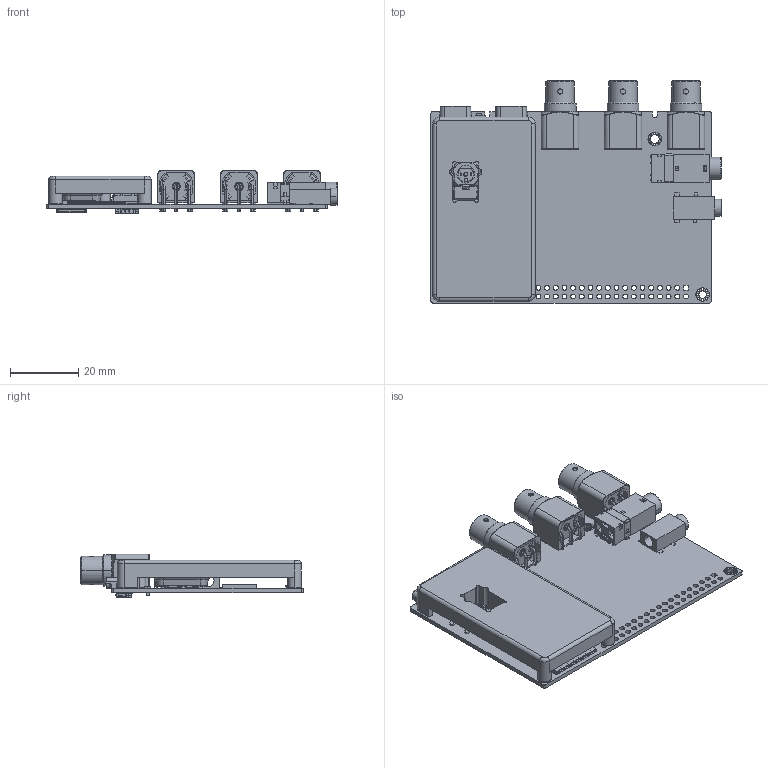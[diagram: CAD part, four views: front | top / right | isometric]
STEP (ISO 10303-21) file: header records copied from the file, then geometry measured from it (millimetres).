
FILE_DESCRIPTION((''),'2;1');
FILE_NAME('TONE2PRO_3D_MODEL_V210420_ASM','2021-04-20T',('liuhb'),(''),'CREO PARAMETRIC BY PTC INC, 2015200','CREO PARAMETRIC BY PTC INC, 2015200','');
FILE_SCHEMA(('AUTOMOTIVE_DESIGN { 1 0 10303 214 1 1 1 1 }'));
Products named in the file (34): K671-RJ-255ABKPL_OUT_2_5; SCREW_MAT_2_1_5; SCREW_MAT_2_2_5_1; SCREW_MAT_2_2_5_2; SCREW_MAT_2_2_5_ASM; SCREW_MAT_2_3_5; SCREW_MAT_2_4_5; SCREW_MAT_2_ASM_5_ASM; _SRBE110301_2_6; SRBE110301_ASM_2_ASM_6_ASM; KHADAS_TONE_SMALL_PCB_ASM_2_ASM_ASM; _D-PHONE_2_2_5; D-PHONE_2_ASM_2_ASM_5_ASM; KHADAS_TONE_SMALL_2PCB_ASM_2_AS_ASM; _HDMI_20200216_2_5; HDMI_20200216_ASM_2_ASM_5_ASM; _781710004_2_5; 781710004_ASM_2_ASM_5_ASM; FH34SRJ_ASM_2_ASM_5_ASM; RJ-20191127-BODY-12_2_5; RJ-20191127-08S1_1_ASM_2_ASM_5_ASM; RJ-20191127-08S1_ASM_2_ASM_5_ASM; PJ-4450A_3D0_3_1_5; PJ-4450A_3D0_3_2_5; PJ-4450A_3D0_3_ASM_5_ASM; TONE_P12_TOP_5; TONE2-PCBA-20200911_5; FH34SRJ-30S-0_5SH_2_5; TONE2_P12_BOTTOM_5; FH34SRJ-14S-0_5SH_5; TONE2_P13_BOTTOM_5; JIANCEZHIJU_5; TONE_V13_PCB_ASM_4_ASM_6_ASM; TONE2PRO_3D_MODEL_V210420_ASM
Assembly tree (36 placements, depth 5):
  TONE2PRO_3D_MODEL_V210420_ASM
    TONE_V13_PCB_ASM_4_ASM_6_ASM
      K671-RJ-255ABKPL_OUT_2_5
      SCREW_MAT_2_ASM_5_ASM
        SCREW_MAT_2_1_5
        SCREW_MAT_2_2_5_ASM
          SCREW_MAT_2_2_5_1
          SCREW_MAT_2_2_5_2
        SCREW_MAT_2_3_5
        SCREW_MAT_2_4_5
      KHADAS_TONE_SMALL_PCB_ASM_2_ASM_ASM
        SRBE110301_ASM_2_ASM_6_ASM
          _SRBE110301_2_6
      KHADAS_TONE_SMALL_2PCB_ASM_2_AS_ASM
        D-PHONE_2_ASM_2_ASM_5_ASM
          _D-PHONE_2_2_5
      HDMI_20200216_ASM_2_ASM_5_ASM  x2
        _HDMI_20200216_2_5
      781710004_ASM_2_ASM_5_ASM
        _781710004_2_5
      FH34SRJ_ASM_2_ASM_5_ASM
      RJ-20191127-08S1_ASM_2_ASM_5_ASM  x3
        RJ-20191127-08S1_1_ASM_2_ASM_5_ASM
          RJ-20191127-BODY-12_2_5
      PJ-4450A_3D0_3_ASM_5_ASM
        PJ-4450A_3D0_3_1_5
        PJ-4450A_3D0_3_2_5
      TONE_P12_TOP_5
      TONE2-PCBA-20200911_5
      FH34SRJ-30S-0_5SH_2_5
      TONE2_P12_BOTTOM_5
      FH34SRJ-14S-0_5SH_5
      TONE2_P13_BOTTOM_5
      JIANCEZHIJU_5
Bounding box: 84.9 x 65 x 12.7 mm (x, y, z)
Volume: 18724 mm3; surface area: 27729.2 mm2
Topology: 19 solids, 27 shells, 5538 faces, 15804 edges, 10344 vertices
Faces by surface type: plane 3333, cylinder 1736, cone 274, torus 113, bspline 50, sphere 32
Entity records: 181666 total; most frequent: CARTESIAN_POINT 30422, ORIENTED_EDGE 25624, DIRECTION 24609, EDGE_CURVE 12812, VECTOR 8819, LINE 8819, VERTEX_POINT 8433, AXIS2_PLACEMENT_3D 7895
